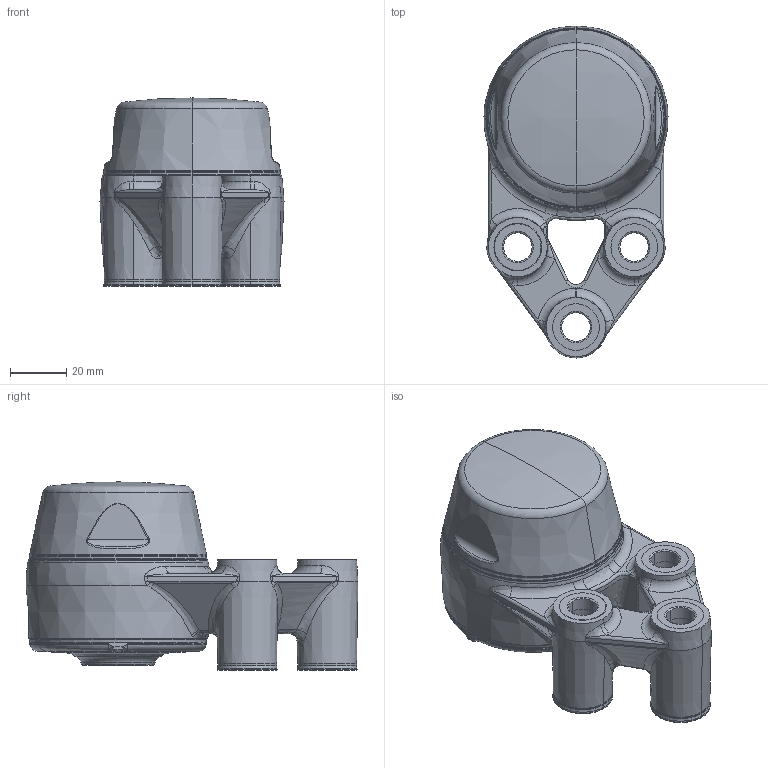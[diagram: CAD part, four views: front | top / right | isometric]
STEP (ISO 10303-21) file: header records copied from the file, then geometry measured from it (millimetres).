
FILE_DESCRIPTION (( 'STEP AP203' ), '1' );
FILE_NAME ('XB3FC52(Blue)-SSB2500(Front)-CL(Blue)-OS(Blue)_Shell.step', '2020-09-23T08:32:08', ( '' ), ( '' ), 'SwSTEP 2.0', 'SolidWorks 2019', '' );
FILE_SCHEMA (( 'CONFIG_CONTROL_DESIGN' ));
Length unit declared in the file: millimetre
Products named in the file (1): XB3FC52(Blue)-SSB2500(Front)-CL(Blue)-OS(Blue)_Shell
Bounding box: 65.6 x 118.34 x 67.05 mm (x, y, z)
Surface area: 41531.9 mm2 (no closed solid volume)
Topology: 0 solids, 33 shells, 481 faces, 1808 edges, 1329 vertices
Faces by surface type: bspline 179, cone 88, torus 78, cylinder 66, plane 43, sphere 27
Entity records: 32412 total; most frequent: CARTESIAN_POINT 19579, ORIENTED_EDGE 2775, DIRECTION 2024, EDGE_CURVE 1804, VERTEX_POINT 1329, B_SPLINE_CURVE_WITH_KNOTS 975, AXIS2_PLACEMENT_3D 913, CIRCLE 610
